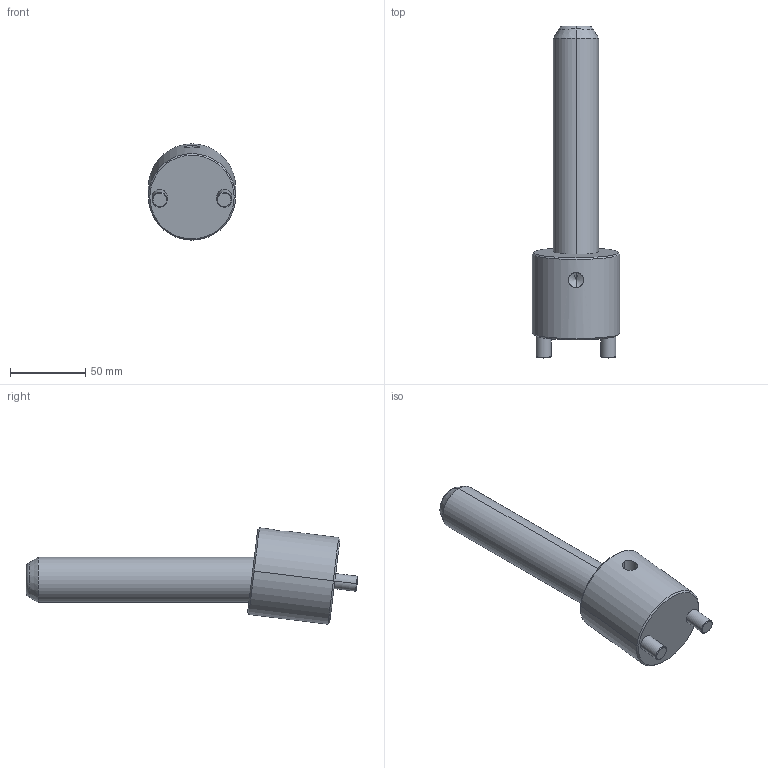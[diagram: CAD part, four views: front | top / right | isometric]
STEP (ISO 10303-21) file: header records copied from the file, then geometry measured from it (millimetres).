
FILE_DESCRIPTION(('CATIA V5 STEP Exchange'),'2;1');
FILE_NAME('C:\Users\Raffaele\Desktop\3D BOLEX\3D FILES CF BOLEX\19-INCLINED ASSEMBLY REF_CI\CI0730150.stp','2019-06-24T07:34:11+00:00',('none'),('none'),'CATIA Version 5 Release 20 GA (IN-10)','CATIA V5 STEP AP203','none');
FILE_SCHEMA(('CONFIG_CONTROL_DESIGN'));
Length unit declared in the file: millimetre
Products named in the file (1): CI0730150
Assembly tree (2 placements, depth 2):
  CI0730150
    #58
    #584
Bounding box: 58 x 220.76 x 64.03 mm (x, y, z)
Volume: 249578.6 mm3; surface area: 40294.8 mm2
Topology: 2 solids, 2 shells, 39 faces, 82 edges, 47 vertices
Faces by surface type: cone 14, cylinder 14, plane 7, torus 4
Entity records: 1539 total; most frequent: CARTESIAN_POINT 678, ORIENTED_EDGE 160, DIRECTION 146, EDGE_CURVE 80, AXIS2_PLACEMENT_3D 73, VERTEX_POINT 47, EDGE_LOOP 43, ADVANCED_FACE 39
